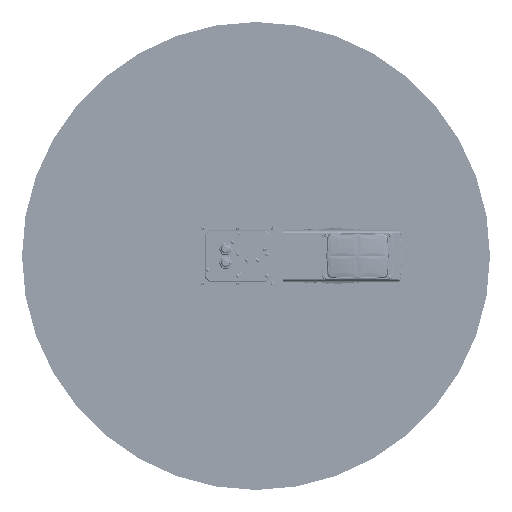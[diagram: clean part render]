
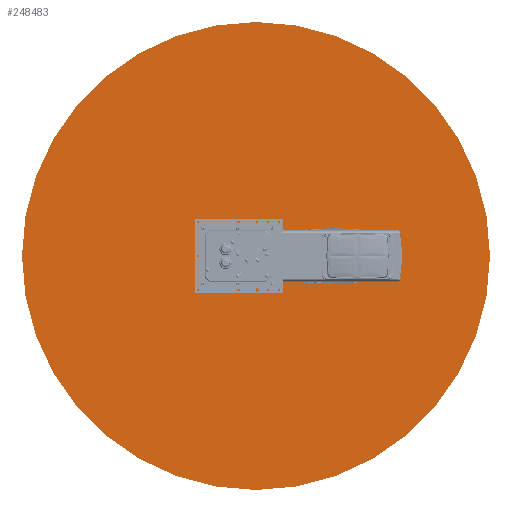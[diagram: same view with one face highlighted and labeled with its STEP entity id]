
A CAD part, front view. The second image highlights one B-rep face of the part: STEP entity #248483.
In plain terms, the highlighted planar face has unit normal (0, -1, 0) as drawn and (1, 0, 0) by its records, which use the part's own axes.
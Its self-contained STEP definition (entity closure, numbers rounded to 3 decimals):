
#248418=CARTESIAN_POINT('',(0.,0.,0.));
#248419=DIRECTION('',(-1.,0.,0.));
#248420=DIRECTION('',(0.,-1.,0.));
#248421=AXIS2_PLACEMENT_3D('',#248418,#248419,#248420);
#248426=CARTESIAN_POINT('',(0.,0.,0.));
#248427=DIRECTION('',(-1.,0.,0.));
#248428=DIRECTION('',(0.,1.,0.));
#248429=AXIS2_PLACEMENT_3D('',#248426,#248427,#248428);
#248464=CARTESIAN_POINT('',(0.,-550.,0.));
#248465=CARTESIAN_POINT('',(0.,550.,0.));
#248466=VERTEX_POINT('',#248464);
#248467=VERTEX_POINT('',#248465);
#248472=CARTESIAN_POINT('',(0.,0.,0.));
#248473=DIRECTION('',(-1.,0.,0.));
#248474=DIRECTION('',(0.,-1.,0.));
#248475=AXIS2_PLACEMENT_3D('',#248472,#248473,#248474);
#248476=PLANE('',#248475);
#248478=ORIENTED_EDGE('',*,*,#248477,.T.);
#248480=ORIENTED_EDGE('',*,*,#248479,.T.);
#248481=EDGE_LOOP('',(#248478,#248480));
#248482=FACE_OUTER_BOUND('',#248481,.F.);
#248483=ADVANCED_FACE('',(#248482),#248476,.F.);
#248422=CIRCLE('',#248421,550.);
#248430=CIRCLE('',#248429,550.);
#248477=EDGE_CURVE('',#248466,#248467,#248422,.T.);
#248479=EDGE_CURVE('',#248467,#248466,#248430,.T.);
